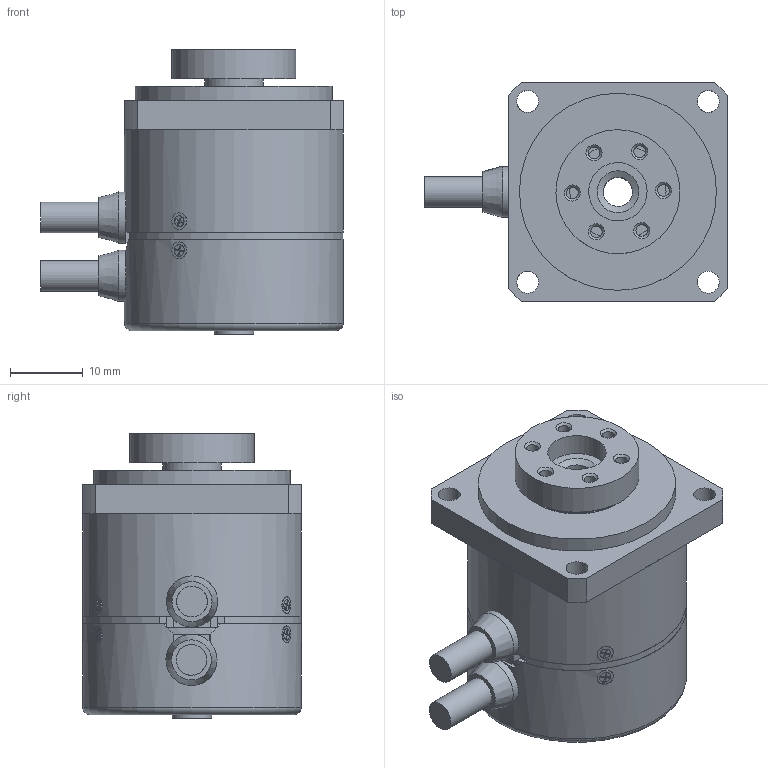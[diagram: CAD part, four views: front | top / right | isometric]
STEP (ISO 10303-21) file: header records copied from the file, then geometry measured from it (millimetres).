
FILE_DESCRIPTION(('STEP AP214'),'1');
FILE_NAME('MDH-3006.stp','2017-10-10T07:14:01',(' '),(' '),'Spatial InterOp 3D',' ',' ');
FILE_SCHEMA(('automotive_design'));
Length unit declared in the file: millimetre
Products named in the file (12): オイルシール; ケーブル; タッピングネジ M1.4x2.2; サラコネジ M1.4x2.5; ｱﾝｷﾞｭﾗﾍﾞｱﾘﾝｸﾞ MTA06-15; ブッシュ; カバー_H; ベース; シャフト_H3006; ケース_3006
Assembly tree (17 placements, depth 2):
  (unnamed)
    オイルシール
    ケーブル  x2
    タッピングネジ M1.4x2.2  x3
    サラコネジ M1.4x2.5  x3
    ｱﾝｷﾞｭﾗﾍﾞｱﾘﾝｸﾞ MTA06-15
    ｱﾝｷﾞｭﾗﾍﾞｱﾘﾝｸﾞ MTA06-15
    ブッシュ  x2
    カバー_H
    ベース
    シャフト_H3006
    ケース_3006
Bounding box: 41.49 x 30 x 39 mm (x, y, z)
Volume: 10915.1 mm3; surface area: 17324.9 mm2
Topology: 19 solids, 19 shells, 420 faces, 975 edges, 630 vertices
Faces by surface type: plane 218, cylinder 138, cone 45, torus 16, bspline 3
Full cylindrical faces by diameter (mm): 1.1 x15, 1.4 x12, 1.5 x3, 1.6 x9, 2.3 x6, 3 x4, 4 x1, 4.2 x4, 5.4 x2, 6 x5, 7 x2, 8 x2, 8.5 x2, 8.6 x6, 9.2 x2, 9.5 x1, 10 x2, 11.8 x2, 12 x1, 12.6 x2, 13 x1, 13.2 x6, 15 x4, 16 x1, 17 x1, 27 x2, 28 x1, 28.2 x1, 28.9 x1, 29 x1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
Entity records: 10915 total; most frequent: CARTESIAN_POINT 2043, DIRECTION 1354, ORIENTED_EDGE 1066, AXIS2_PLACEMENT_3D 560, EDGE_CURVE 533, EDGE_LOOP 485, VERTEX_POINT 409, FACE_OUTER_BOUND 379
